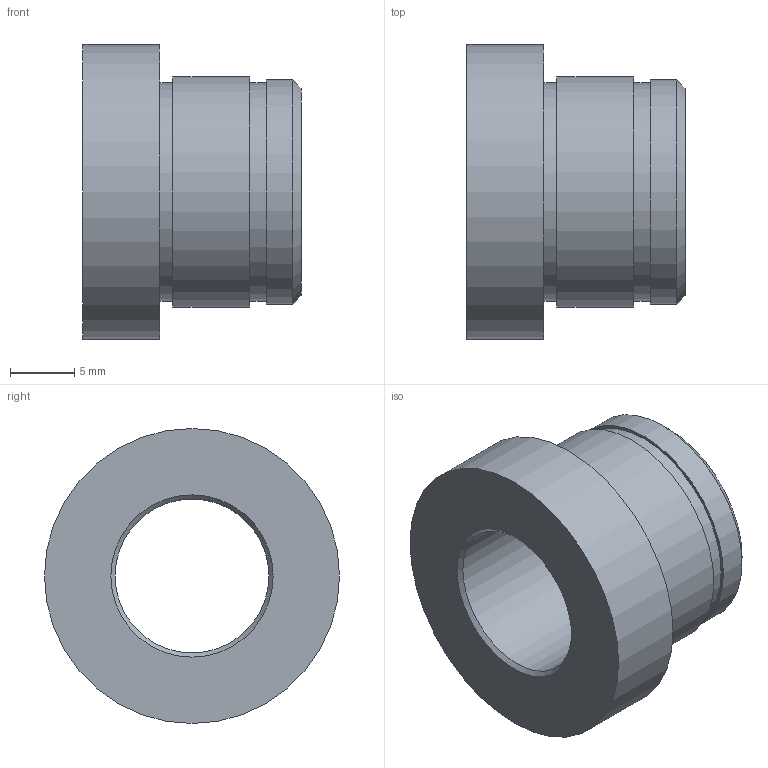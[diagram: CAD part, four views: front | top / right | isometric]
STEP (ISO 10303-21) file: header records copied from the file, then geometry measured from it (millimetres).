
FILE_DESCRIPTION(/* description */ ('Impex Ready, www.impex-ready.pl'),/* implementation_level */ '2;1');
FILE_NAME(/* name */ 'C:\Users\VIKKY\Nextcloud\SM\projekt 10 - części na stronę internetową\Pliki_3D_new\307 Tuleje BG05\307 BG05_STEP\BG05.012017.ipt.step',/* time_stamp */ '2021-12-21T17:20:41+01:00',/* author */ ('SM'),/* organization */ (''),/* preprocessor_version */ 'ST-DEVELOPER v18.1',/* originating_system */ 'Autodesk Inventor 2021',/* authorisation */ '');
FILE_SCHEMA (('AUTOMOTIVE_DESIGN { 1 0 10303 214 3 1 1 }'));
Length unit declared in the file: millimetre
Products named in the file (1): BG05.012017
Bounding box: 17 x 23 x 23 mm (x, y, z)
Volume: 3253.1 mm3; surface area: 2336.3 mm2
Topology: 1 solids, 1 shells, 15 faces, 27 edges, 18 vertices
Faces by surface type: cylinder 6, plane 6, cone 3
Full cylindrical faces by diameter (mm): 12 x1, 17 x2, 17.5 x1, 18 x1, 23 x1
Entity records: 457 total; most frequent: DIRECTION 77, CARTESIAN_POINT 61, ORIENTED_EDGE 54, AXIS2_PLACEMENT_3D 34, EDGE_CURVE 27, EDGE_LOOP 21, CIRCLE 18, VERTEX_POINT 18
